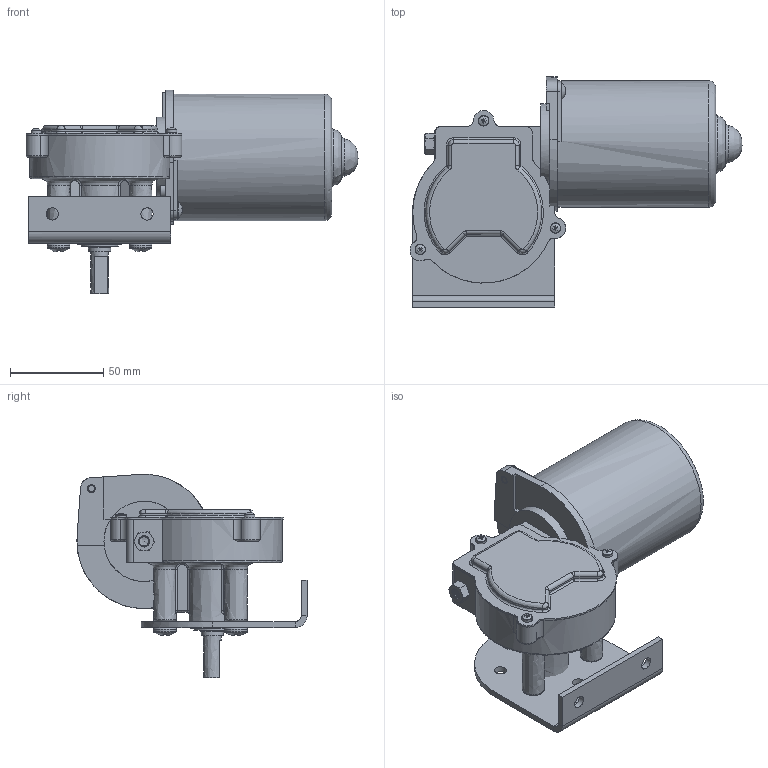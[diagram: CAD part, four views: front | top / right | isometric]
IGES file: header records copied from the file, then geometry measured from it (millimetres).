
Global section: file name: L_bracket_motor_asm v4; native system: unknown; preprocessor: unknown; author: unknown; organization: unknown; date: 20210719.110221; units: inch
Bounding box: 177.99 x 123.4 x 108.91 mm (x, y, z)
Volume: 176495.2 mm3; surface area: 132593.8 mm2
Topology: 17 solids, 17 shells, 905 faces, 2582 edges, 1732 vertices
Faces by surface type: bspline 905
